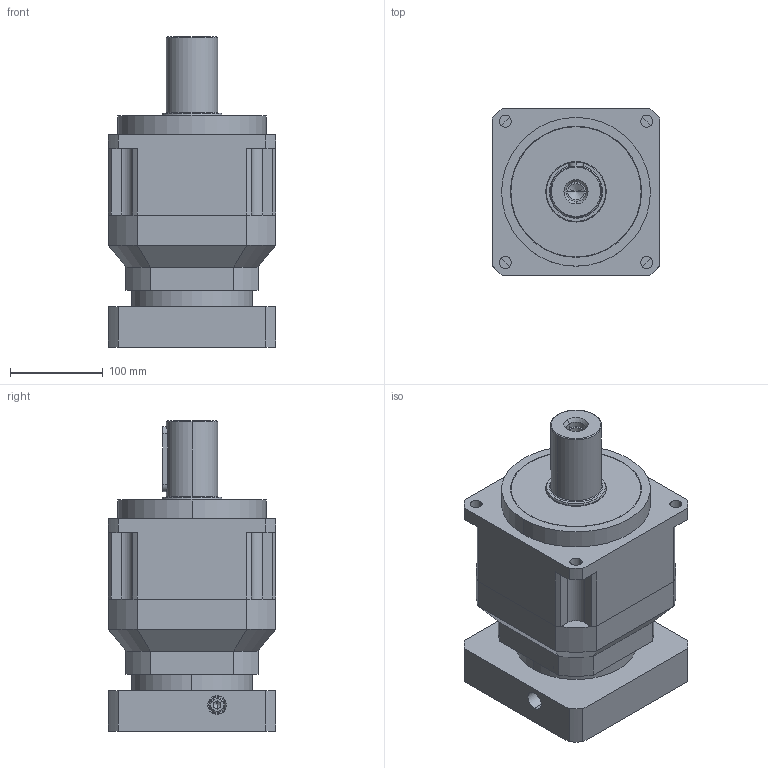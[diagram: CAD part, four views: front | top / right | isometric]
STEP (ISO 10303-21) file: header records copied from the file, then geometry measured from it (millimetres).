
FILE_DESCRIPTION (( 'STEP AP214' ), '1' );
FILE_NAME ('PGH180-L2-[ ]-P2 35J10-79-114.3-200-M12 bzsc55.STEP', '2024-05-30T01:24:59', ( '' ), ( '' ), 'SwSTEP 2.0', 'SolidWorks 2021', '' );
FILE_SCHEMA (( 'AUTOMOTIVE_DESIGN' ));
Length unit declared in the file: millimetre
Products named in the file (1): PGH180-L2-[  ]-P2 35J10-79-114.3-200-M12 bzsc55
Bounding box: 180 x 180 x 333.5 mm (x, y, z)
Volume: 6366796 mm3; surface area: 494412.2 mm2
Topology: 13 solids, 13 shells, 1368 faces, 3571 edges, 2338 vertices
Faces by surface type: plane 742, bspline 310, cylinder 244, cone 54, torus 18
Entity records: 57017 total; most frequent: CARTESIAN_POINT 24180, ORIENTED_EDGE 7110, DIRECTION 5685, EDGE_CURVE 3555, VERTEX_POINT 2338, LINE 2291, VECTOR 2291, AXIS2_PLACEMENT_3D 1697
